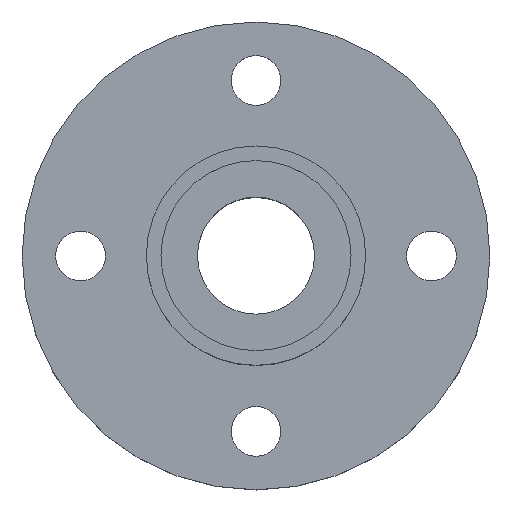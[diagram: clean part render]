
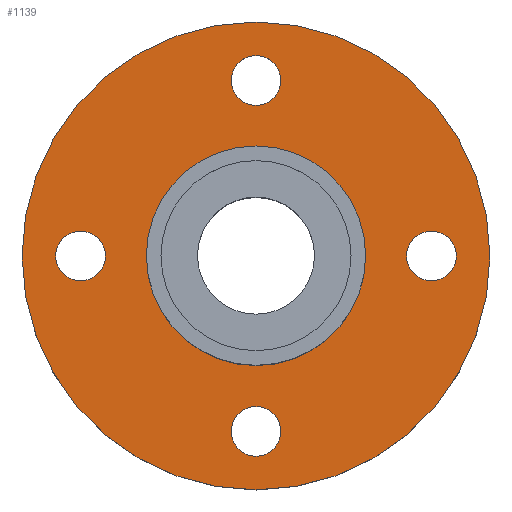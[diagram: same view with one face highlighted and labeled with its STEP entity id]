
A CAD part, top view. The second image highlights one B-rep face of the part: STEP entity #1139.
In plain terms, the highlighted planar face has unit normal (0, 0, 1).
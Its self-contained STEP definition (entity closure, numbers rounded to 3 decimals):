
#51=CARTESIAN_POINT('',(-16.0,-0.1,5.0));
#52=VERTEX_POINT('',#51);
#68=CARTESIAN_POINT('',(16.0,-0.1,5.0));
#69=VERTEX_POINT('',#68);
#76=CARTESIAN_POINT('',(0.0,-0.1,5.0));
#77=DIRECTION('',(0.0,0.0,-1.0));
#78=DIRECTION('',(-1.0,0.0,0.0));
#79=AXIS2_PLACEMENT_3D('',#76,#77,#78);
#80=CIRCLE('',#79,16.0);
#81=EDGE_CURVE('',#69,#52,#80,.T.);
#133=CARTESIAN_POINT('',(-7.5,-0.1,5.0));
#134=VERTEX_POINT('',#133);
#143=CARTESIAN_POINT('',(7.5,-0.1,5.0));
#144=VERTEX_POINT('',#143);
#145=CARTESIAN_POINT('',(0.0,-0.1,5.0));
#146=DIRECTION('',(0.0,0.0,-1.0));
#147=DIRECTION('',(-1.0,0.0,0.0));
#148=AXIS2_PLACEMENT_3D('',#145,#146,#147);
#149=CIRCLE('',#148,7.5);
#150=EDGE_CURVE('',#144,#134,#149,.T.);
#345=CARTESIAN_POINT('',(0.0,10.2,5.0));
#346=VERTEX_POINT('',#345);
#362=CARTESIAN_POINT('',(0.,13.6,5.));
#363=VERTEX_POINT('',#362);
#370=CARTESIAN_POINT('',(0.0,11.9,5.));
#371=DIRECTION('',(0.0,0.0,-1.0));
#372=DIRECTION('',(0.0,-1.0,0.0));
#373=AXIS2_PLACEMENT_3D('',#370,#371,#372);
#374=CIRCLE('',#373,1.7);
#375=EDGE_CURVE('',#346,#363,#374,.T.);
#429=CARTESIAN_POINT('',(-10.3,-0.1,5.0));
#430=VERTEX_POINT('',#429);
#446=CARTESIAN_POINT('',(-13.7,-0.1,5.));
#447=VERTEX_POINT('',#446);
#454=CARTESIAN_POINT('',(-12.,-0.1,5.));
#455=DIRECTION('',(0.0,0.0,-1.0));
#456=DIRECTION('',(1.0,0.0,0.0));
#457=AXIS2_PLACEMENT_3D('',#454,#455,#456);
#458=CIRCLE('',#457,1.7);
#459=EDGE_CURVE('',#430,#447,#458,.T.);
#513=CARTESIAN_POINT('',(0.,-10.4,5.0));
#514=VERTEX_POINT('',#513);
#530=CARTESIAN_POINT('',(0.,-13.8,5.));
#531=VERTEX_POINT('',#530);
#538=CARTESIAN_POINT('',(0.,-12.1,5.));
#539=DIRECTION('',(0.0,0.0,-1.0));
#540=DIRECTION('',(0.0,1.0,0.0));
#541=AXIS2_PLACEMENT_3D('',#538,#539,#540);
#542=CIRCLE('',#541,1.7);
#543=EDGE_CURVE('',#514,#531,#542,.T.);
#597=CARTESIAN_POINT('',(10.3,-0.1,5.0));
#598=VERTEX_POINT('',#597);
#614=CARTESIAN_POINT('',(13.7,-0.1,5.));
#615=VERTEX_POINT('',#614);
#622=CARTESIAN_POINT('',(12.,-0.1,5.));
#623=DIRECTION('',(0.0,0.0,-1.0));
#624=DIRECTION('',(-1.0,0.0,0.0));
#625=AXIS2_PLACEMENT_3D('',#622,#623,#624);
#626=CIRCLE('',#625,1.7);
#627=EDGE_CURVE('',#598,#615,#626,.T.);
#638=CARTESIAN_POINT('',(12.,-0.1,5.));
#639=DIRECTION('',(0.0,0.0,-1.0));
#640=DIRECTION('',(-1.0,0.0,0.0));
#641=AXIS2_PLACEMENT_3D('',#638,#639,#640);
#642=CIRCLE('',#641,1.7);
#643=EDGE_CURVE('',#615,#598,#642,.T.);
#700=CARTESIAN_POINT('',(0.,-12.1,5.));
#701=DIRECTION('',(0.0,0.0,-1.0));
#702=DIRECTION('',(0.0,1.0,0.0));
#703=AXIS2_PLACEMENT_3D('',#700,#701,#702);
#704=CIRCLE('',#703,1.7);
#705=EDGE_CURVE('',#531,#514,#704,.T.);
#762=CARTESIAN_POINT('',(-12.,-0.1,5.));
#763=DIRECTION('',(0.0,0.0,-1.0));
#764=DIRECTION('',(1.0,0.0,0.0));
#765=AXIS2_PLACEMENT_3D('',#762,#763,#764);
#766=CIRCLE('',#765,1.7);
#767=EDGE_CURVE('',#447,#430,#766,.T.);
#824=CARTESIAN_POINT('',(0.0,11.9,5.));
#825=DIRECTION('',(0.0,0.0,-1.0));
#826=DIRECTION('',(0.0,-1.0,0.0));
#827=AXIS2_PLACEMENT_3D('',#824,#825,#826);
#828=CIRCLE('',#827,1.7);
#829=EDGE_CURVE('',#363,#346,#828,.T.);
#1056=CARTESIAN_POINT('',(0.0,-0.1,5.0));
#1057=DIRECTION('',(0.0,0.0,-1.0));
#1058=DIRECTION('',(-1.0,0.0,0.0));
#1059=AXIS2_PLACEMENT_3D('',#1056,#1057,#1058);
#1060=CIRCLE('',#1059,7.5);
#1061=EDGE_CURVE('',#134,#144,#1060,.T.);
#1098=CARTESIAN_POINT('',(0.0,-0.1,5.0));
#1099=DIRECTION('',(0.0,0.0,-1.0));
#1100=DIRECTION('',(-1.0,0.0,0.0));
#1101=AXIS2_PLACEMENT_3D('',#1098,#1099,#1100);
#1102=CIRCLE('',#1101,16.0);
#1103=EDGE_CURVE('',#52,#69,#1102,.T.);
#1110=CARTESIAN_POINT('',(0.0,-0.1,5.0));
#1111=DIRECTION('',(0.0,0.0,-1.0));
#1112=DIRECTION('',(-1.0,0.0,0.0));
#1113=AXIS2_PLACEMENT_3D('',#1110,#1111,#1112);
#1114=PLANE('',#1113);
#1115=ORIENTED_EDGE('',*,*,#81,.F.);
#1116=ORIENTED_EDGE('',*,*,#1103,.F.);
#1117=EDGE_LOOP('',(#1115,#1116));
#1118=FACE_OUTER_BOUND('',#1117,.T.);
#1119=ORIENTED_EDGE('',*,*,#627,.T.);
#1120=ORIENTED_EDGE('',*,*,#643,.T.);
#1121=EDGE_LOOP('',(#1119,#1120));
#1122=FACE_BOUND('',#1121,.T.);
#1123=ORIENTED_EDGE('',*,*,#543,.T.);
#1124=ORIENTED_EDGE('',*,*,#705,.T.);
#1125=EDGE_LOOP('',(#1123,#1124));
#1126=FACE_BOUND('',#1125,.T.);
#1127=ORIENTED_EDGE('',*,*,#459,.T.);
#1128=ORIENTED_EDGE('',*,*,#767,.T.);
#1129=EDGE_LOOP('',(#1127,#1128));
#1130=FACE_BOUND('',#1129,.T.);
#1131=ORIENTED_EDGE('',*,*,#375,.T.);
#1132=ORIENTED_EDGE('',*,*,#829,.T.);
#1133=EDGE_LOOP('',(#1131,#1132));
#1134=FACE_BOUND('',#1133,.T.);
#1135=ORIENTED_EDGE('',*,*,#150,.T.);
#1136=ORIENTED_EDGE('',*,*,#1061,.T.);
#1137=EDGE_LOOP('',(#1135,#1136));
#1138=FACE_BOUND('',#1137,.T.);
#1139=ADVANCED_FACE('',(#1118,#1122,#1126,#1130,#1134,#1138),#1114,.F.);
